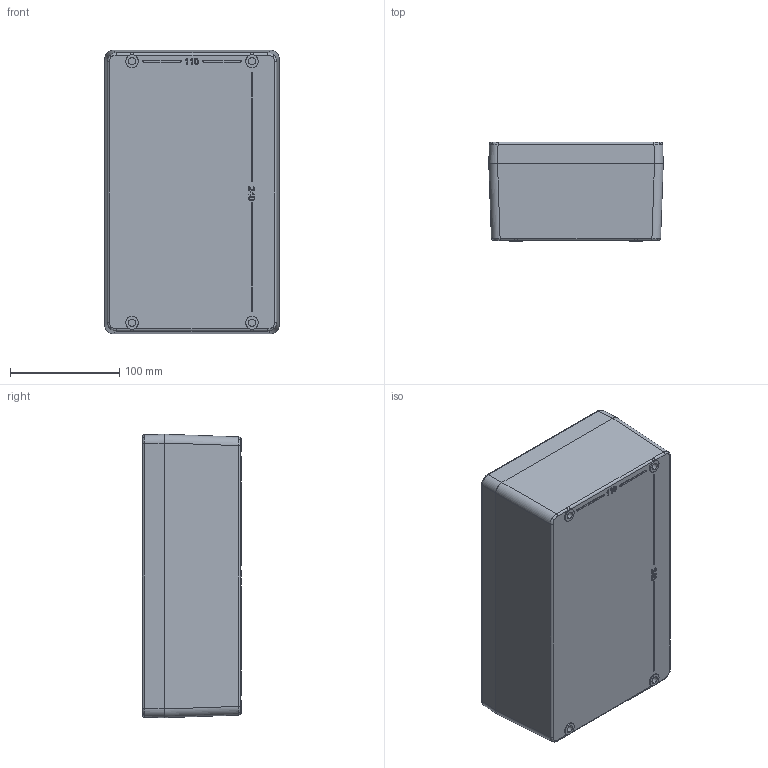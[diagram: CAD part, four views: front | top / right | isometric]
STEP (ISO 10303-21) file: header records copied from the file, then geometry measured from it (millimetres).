
FILE_DESCRIPTION (( 'STEP AP203' ), '1' );
FILE_NAME ('BPG 9.STEP', '2014-06-13T09:07:18', ( '' ), ( '' ), 'SwSTEP 2.0', 'SolidWorks 2014', '' );
FILE_SCHEMA (( 'CONFIG_CONTROL_DESIGN' ));
Length unit declared in the file: millimetre
Products named in the file (3): BPG9 Base; BPG9 Lid; BPG 9
Assembly tree (2 placements, depth 2):
  BPG 9
    BPG9 Base
    BPG9 Lid
Bounding box: 160 x 91 x 260 mm (x, y, z)
Volume: 886825.3 mm3; surface area: 318286.3 mm2
Topology: 2 solids, 2 shells, 495 faces, 1275 edges, 796 vertices
Faces by surface type: cylinder 164, plane 150, bspline 101, cone 72, sphere 4, torus 4
Entity records: 19228 total; most frequent: CARTESIAN_POINT 7648, ORIENTED_EDGE 2478, DIRECTION 2159, EDGE_CURVE 1239, VERTEX_POINT 796, AXIS2_PLACEMENT_3D 771, VECTOR 617, LINE 617
